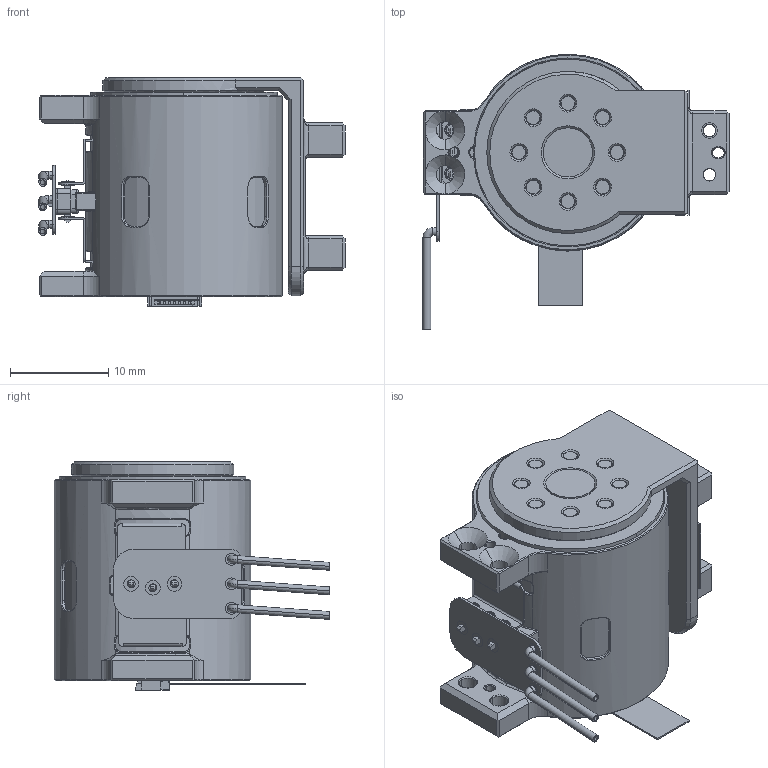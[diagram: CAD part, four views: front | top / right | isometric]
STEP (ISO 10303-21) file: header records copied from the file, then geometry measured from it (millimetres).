
FILE_DESCRIPTION((''),'2;1');
FILE_NAME('X20L_1__ASM','2026-09-01T12:48:14',('wenbo'),(''),'CREO PARAMETRIC BY PTC INC, 2024325','CREO PARAMETRIC BY PTC INC, 2024325','');
FILE_SCHEMA(('CONFIG_CONTROL_DESIGN'));
Length unit declared in the file: millimetre
Products named in the file (36): 023000000004_79_1_1; 021100000003_ASM_8_ASM_1_ASM_1_ASM; 021200000003_ASM_28_ASM_1_ASM_1_ASM; 022700000001-ZK_22_1_1; CU_1_5_1_1; CU_2_3_1_1; XICENG_5_1_1; XICENG1_6_1_1; Y02270000004_AF0_ASM_33_ASM_1_A_ASM; Y02270000004_AF1_ASM_33_ASM_1_A_ASM; 025000000002_AF0_2_1_1_1_1; 025300000001_1_1_2_1_1_1; 025000000001_ASM_2_ASM_1_ASM_1_ASM; 020400000004_ASM_28_ASM_1_ASM_1_ASM; 062700000003_9_1_1; 065100000001_2_1_1; 020300000004_ASM_19_ASM_1_ASM_1_ASM; 024800000001_7_1_1; 1111_3_1_1; 024800000001_ASM_3_ASM_1_ASM_1_ASM; Y02420000008_90_1_1; 0235_10_1_1; 024300000006_21_1_1; 020600000006_ASM_17_ASM_1_ASM_1_ASM; 020200000011_ASM_44_ASM_1_ASM_1_ASM; PRT0012_11_1_1_1; ASM0007_ASM_1_ASM_1_ASM; 200_1; 400_1; 100_1; 300_1; FPC-SMD_0510-GX-7PWB-GF-RB_FP_1_ASM; FPC-SMD_0510-GX-7PWB-GF-RB_FPC-_ASM; X20L_1__ASM_1_ASM; YUANZHU; X20L_1__ASM
Assembly tree (79 placements, depth 8):
  X20L_1__ASM
    X20L_1__ASM_1_ASM
      ASM0007_ASM_1_ASM_1_ASM
        020200000011_ASM_44_ASM_1_ASM_1_ASM
          020300000004_ASM_19_ASM_1_ASM_1_ASM
            020400000004_ASM_28_ASM_1_ASM_1_ASM
              021100000003_ASM_8_ASM_1_ASM_1_ASM
                023000000004_79_1_1
              021200000003_ASM_28_ASM_1_ASM_1_ASM
              Y02270000004_AF0_ASM_33_ASM_1_A_ASM
                022700000001-ZK_22_1_1
                CU_1_5_1_1  x3
                CU_2_3_1_1  x3
                XICENG_5_1_1  x6
                XICENG1_6_1_1  x6
              Y02270000004_AF1_ASM_33_ASM_1_A_ASM
                022700000001-ZK_22_1_1
                CU_1_5_1_1  x3
                CU_2_3_1_1  x3
                XICENG_5_1_1  x6
                XICENG1_6_1_1  x6
              025000000001_ASM_2_ASM_1_ASM_1_ASM
                025000000002_AF0_2_1_1_1_1
                025300000001_1_1_2_1_1_1  x3
            062700000003_9_1_1
            065100000001_2_1_1  x3
          024800000001_ASM_3_ASM_1_ASM_1_ASM
            024800000001_7_1_1
            1111_3_1_1
          020600000006_ASM_17_ASM_1_ASM_1_ASM
            Y02420000008_90_1_1
            0235_10_1_1
            024300000006_21_1_1  x8
        PRT0012_11_1_1_1
      FPC-SMD_0510-GX-7PWB-GF-RB_FPC-_ASM
        FPC-SMD_0510-GX-7PWB-GF-RB_FP_1_ASM
          200_1
          400_1
          100_1
          300_1
    YUANZHU
Bounding box: 31.15 x 28.02 x 23.25 mm (x, y, z)
Volume: 7008.3 mm3; surface area: 8155.4 mm2
Topology: 65 solids, 70 shells, 1771 faces, 4599 edges, 2997 vertices
Faces by surface type: plane 820, cylinder 545, cone 149, torus 99, extrusion 96, bspline 60, sphere 2
Entity records: 51552 total; most frequent: CARTESIAN_POINT 14328, ORIENTED_EDGE 7650, DIRECTION 7608, EDGE_CURVE 3831, AXIS2_PLACEMENT_3D 2627, VERTEX_POINT 2501, VECTOR 2354, LINE 2258
